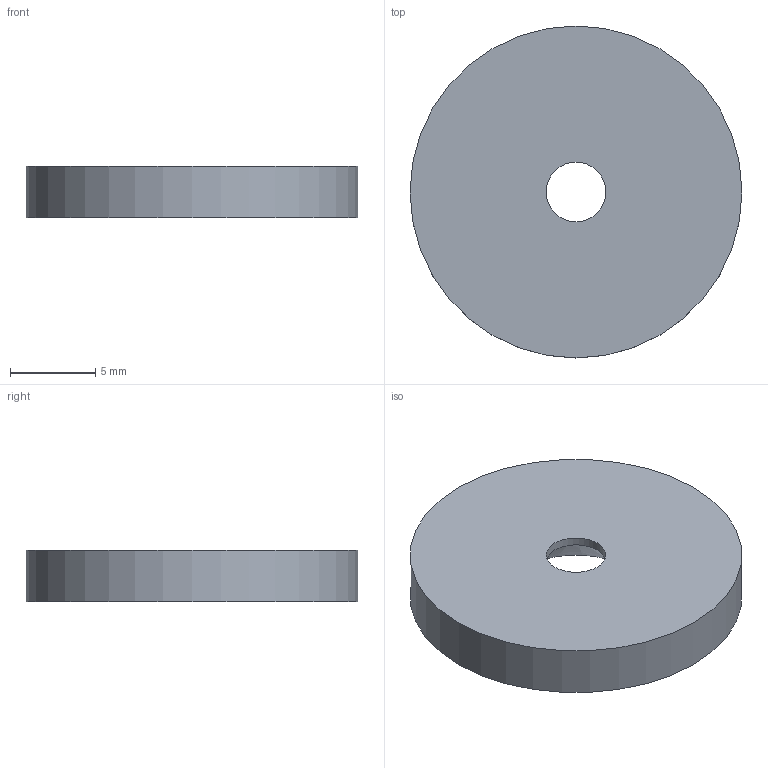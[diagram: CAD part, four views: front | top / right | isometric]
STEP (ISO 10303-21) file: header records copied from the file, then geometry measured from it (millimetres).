
FILE_DESCRIPTION (( 'STEP AP214' ), '1' );
FILE_NAME ('f30605_contre-aimant.step', '2024-12-03T16:16:58', ( '' ), ( '' ), 'SwSTEP 2.0', 'SolidWorks 2023', '' );
FILE_SCHEMA (( 'AUTOMOTIVE_DESIGN' ));
Length unit declared in the file: millimetre
Products named in the file (1): f30605_contre-aimant
Bounding box: 19.5 x 19.5 x 3 mm (x, y, z)
Volume: 816.4 mm3; surface area: 786.9 mm2
Topology: 1 solids, 1 shells, 5 faces, 8 edges, 5 vertices
Faces by surface type: cylinder 2, plane 2, cone 1
Full cylindrical faces by diameter (mm): 3.5 x1, 19.5 x1
Entity records: 131 total; most frequent: DIRECTION 22, CARTESIAN_POINT 16, AXIS2_PLACEMENT_3D 11, ORIENTED_EDGE 10, EDGE_LOOP 10, FACE_OUTER_BOUND 7, VERTEX_POINT 5, EDGE_CURVE 5
